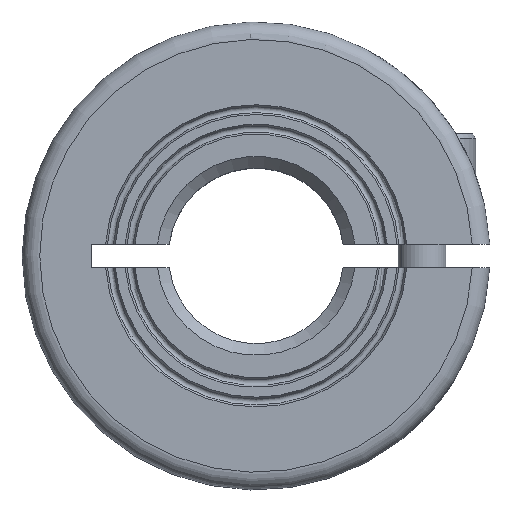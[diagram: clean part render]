
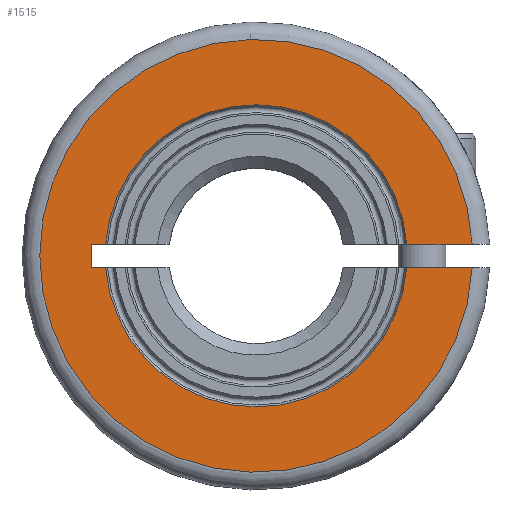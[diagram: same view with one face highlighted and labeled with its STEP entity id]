
A CAD part, top view. The second image highlights one B-rep face of the part: STEP entity #1515.
In plain terms, the highlighted planar face has unit normal (0, 0, 1).
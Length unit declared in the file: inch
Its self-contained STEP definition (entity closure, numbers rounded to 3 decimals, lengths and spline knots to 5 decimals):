
#207=CARTESIAN_POINT('',(0.,0.,0.35433));
#208=DIRECTION('',(0.,0.,-1.));
#209=DIRECTION('',(0.997,-0.077,0.));
#210=AXIS2_PLACEMENT_3D('',#207,#208,#209);
#276=DIRECTION('',(1.,0.,0.));
#277=VECTOR('',#276,0.13219);
#278=CARTESIAN_POINT('',(0.30417,-0.02362,
0.35433));
#279=LINE('',#278,#277);
#381=CARTESIAN_POINT('',(0.,0.,0.35433));
#382=DIRECTION('',(0.,0.,1.));
#383=DIRECTION('',(-1.,0.,0.));
#384=AXIS2_PLACEMENT_3D('',#381,#382,#383);
#386=CARTESIAN_POINT('',(0.,0.,0.35433));
#387=DIRECTION('',(0.,0.,1.));
#388=DIRECTION('',(0.999,0.054,0.));
#389=AXIS2_PLACEMENT_3D('',#386,#387,#388);
#391=DIRECTION('',(1.,0.,0.));
#392=VECTOR('',#391,0.13219);
#393=CARTESIAN_POINT('',(0.30417,0.02362,
0.35433));
#394=LINE('',#393,#392);
#395=CARTESIAN_POINT('',(0.,0.,0.35433));
#396=DIRECTION('',(0.,0.,-1.));
#397=DIRECTION('',(-0.997,0.077,0.));
#398=AXIS2_PLACEMENT_3D('',#395,#396,#397);
#400=DIRECTION('',(1.,0.,0.));
#401=VECTOR('',#400,0.02783);
#402=CARTESIAN_POINT('',(-0.332,0.02362,0.35433));
#403=LINE('',#402,#401);
#404=DIRECTION('',(0.,1.,0.));
#405=VECTOR('',#404,0.04724);
#406=CARTESIAN_POINT('',(-0.332,-0.02362,0.35433));
#407=LINE('',#406,#405);
#408=DIRECTION('',(-1.,0.,0.));
#409=VECTOR('',#408,0.02783);
#410=CARTESIAN_POINT('',(-0.30417,-0.02362,
0.35433));
#411=LINE('',#410,#409);
#936=CARTESIAN_POINT('',(0.30417,-0.02362,
0.35433));
#937=CARTESIAN_POINT('',(0.43636,-0.02362,
0.35433));
#938=VERTEX_POINT('',#936);
#939=VERTEX_POINT('',#937);
#958=CARTESIAN_POINT('',(-0.30417,-0.02362,
0.35433));
#959=VERTEX_POINT('',#958);
#960=CARTESIAN_POINT('',(-0.43701,0.,0.35433));
#961=VERTEX_POINT('',#960);
#962=CARTESIAN_POINT('',(0.43637,0.02362,
0.35433));
#963=VERTEX_POINT('',#962);
#964=CARTESIAN_POINT('',(0.30417,0.02362,
0.35433));
#965=VERTEX_POINT('',#964);
#966=CARTESIAN_POINT('',(-0.30417,0.02362,
0.35433));
#967=VERTEX_POINT('',#966);
#968=CARTESIAN_POINT('',(-0.332,0.02362,0.35433));
#969=VERTEX_POINT('',#968);
#970=CARTESIAN_POINT('',(-0.332,-0.02362,0.35433));
#971=VERTEX_POINT('',#970);
#1493=CARTESIAN_POINT('',(0.,0.,0.35433));
#1494=DIRECTION('',(0.,0.,1.));
#1495=DIRECTION('',(1.,0.,0.));
#1496=AXIS2_PLACEMENT_3D('',#1493,#1494,#1495);
#1497=PLANE('',#1496);
#1498=ORIENTED_EDGE('',*,*,#1292,.F.);
#1499=ORIENTED_EDGE('',*,*,#1457,.T.);
#1501=ORIENTED_EDGE('',*,*,#1500,.F.);
#1503=ORIENTED_EDGE('',*,*,#1502,.F.);
#1505=ORIENTED_EDGE('',*,*,#1504,.F.);
#1507=ORIENTED_EDGE('',*,*,#1506,.F.);
#1509=ORIENTED_EDGE('',*,*,#1508,.F.);
#1511=ORIENTED_EDGE('',*,*,#1510,.F.);
#1512=ORIENTED_EDGE('',*,*,#1249,.F.);
#1513=EDGE_LOOP('',(#1498,#1499,#1501,#1503,#1505,#1507,#1509,#1511,#1512));
#1514=FACE_OUTER_BOUND('',#1513,.F.);
#211=CIRCLE('',#210,0.30509);
#385=CIRCLE('',#384,0.43701);
#390=CIRCLE('',#389,0.43701);
#399=CIRCLE('',#398,0.30509);
#1249=EDGE_CURVE('',#959,#971,#411,.T.);
#1292=EDGE_CURVE('',#938,#959,#211,.T.);
#1457=EDGE_CURVE('',#938,#939,#279,.T.);
#1500=EDGE_CURVE('',#961,#939,#385,.T.);
#1502=EDGE_CURVE('',#963,#961,#390,.T.);
#1504=EDGE_CURVE('',#965,#963,#394,.T.);
#1506=EDGE_CURVE('',#967,#965,#399,.T.);
#1508=EDGE_CURVE('',#969,#967,#403,.T.);
#1510=EDGE_CURVE('',#971,#969,#407,.T.);
#1515=ADVANCED_FACE('',(#1514),#1497,.T.);
